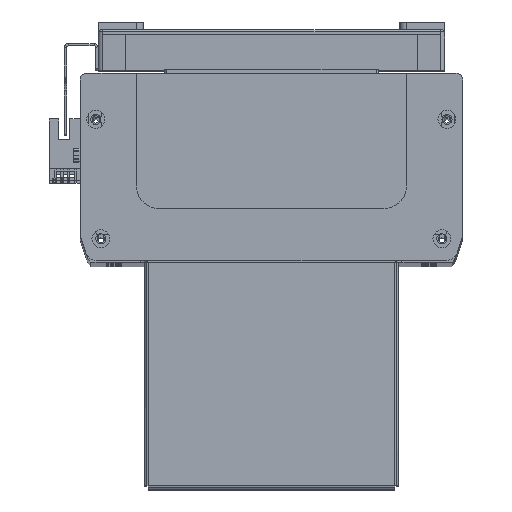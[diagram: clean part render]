
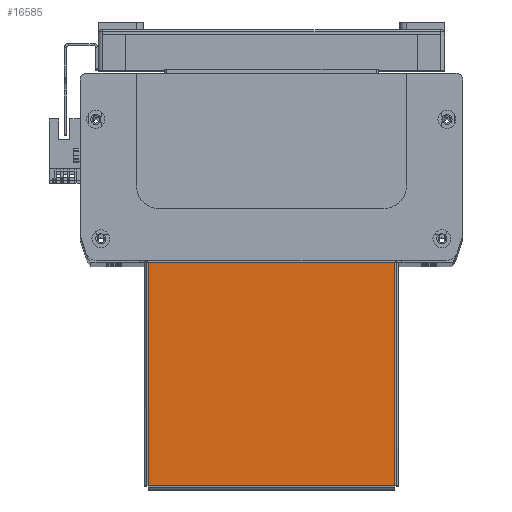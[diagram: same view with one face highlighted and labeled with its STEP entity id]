
A CAD part, top view. The second image highlights one B-rep face of the part: STEP entity #16585.
In plain terms, the highlighted planar face has unit normal (0, 0, 1).
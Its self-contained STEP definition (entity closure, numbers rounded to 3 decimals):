
#1399 = FACE_OUTER_BOUND ( 'NONE', #37773, .T. ) ;
#7725 = CARTESIAN_POINT ( 'NONE',  ( -54.763, 50., 0. ) ) ;
#7726 = DIRECTION ( 'NONE',  ( 0., -1., 0. ) ) ;
#7730 = CARTESIAN_POINT ( 'NONE',  ( -54.793, -49.263, 0. ) ) ;
#7752 = DIRECTION ( 'NONE',  ( 1., 0., 0. ) ) ;
#11767 = EDGE_CURVE ( 'NONE', #51728, #51780, #48969, .T. ) ;
#11770 = EDGE_CURVE ( 'NONE', #51780, #51774, #49083, .T. ) ;
#11786 = EDGE_CURVE ( 'NONE', #51774, #51748, #49034, .T. ) ;
#11794 = EDGE_CURVE ( 'NONE', #51748, #51728, #49056, .T. ) ;
#14633 = CARTESIAN_POINT ( 'NONE',  ( -54.763, 50., 0. ) ) ;
#14684 = CARTESIAN_POINT ( 'NONE',  ( 54.763, 50., 0. ) ) ;
#14686 = CARTESIAN_POINT ( 'NONE',  ( -54.763, -49.263, 0. ) ) ;
#14688 = CARTESIAN_POINT ( 'NONE',  ( 54.763, -49.263, 0. ) ) ;
#14705 = CARTESIAN_POINT ( 'NONE',  ( 54.763, -49.293, 0. ) ) ;
#14710 = DIRECTION ( 'NONE',  ( 0., 1., 0. ) ) ;
#14743 = CARTESIAN_POINT ( 'NONE',  ( -55.5, 50., 0. ) ) ;
#14756 = DIRECTION ( 'NONE',  ( -1., 0., 0. ) ) ;
#16585 = ADVANCED_FACE ( 'NONE', ( #1399 ), #24384, .T. ) ;
#24357 = DIRECTION ( 'NONE',  ( 1., 0., 0. ) ) ;
#24373 = CARTESIAN_POINT ( 'NONE',  ( 0., 0., 0. ) ) ;
#24374 = DIRECTION ( 'NONE',  ( 0., 0., 1. ) ) ;
#24384 = PLANE ( 'NONE',  #29978 ) ;
#29978 = AXIS2_PLACEMENT_3D ( 'NONE', #24373, #24374, #24357 ) ;
#37773 = EDGE_LOOP ( 'NONE', ( #40348, #40264, #40268, #40367 ) ) ;
#40264 = ORIENTED_EDGE ( 'NONE', *, *, #11770, .T. ) ;
#40268 = ORIENTED_EDGE ( 'NONE', *, *, #11786, .T. ) ;
#40348 = ORIENTED_EDGE ( 'NONE', *, *, #11767, .T. ) ;
#40367 = ORIENTED_EDGE ( 'NONE', *, *, #11794, .T. ) ;
#48969 = LINE ( 'NONE', #7725, #49023 ) ;
#49023 = VECTOR ( 'NONE', #7726, 1000. ) ;
#49034 = LINE ( 'NONE', #14705, #49078 ) ;
#49056 = LINE ( 'NONE', #14743, #49088 ) ;
#49078 = VECTOR ( 'NONE', #14710, 1000. ) ;
#49081 = VECTOR ( 'NONE', #7752, 1000. ) ;
#49083 = LINE ( 'NONE', #7730, #49081 ) ;
#49088 = VECTOR ( 'NONE', #14756, 1000. ) ;
#51728 = VERTEX_POINT ( 'NONE', #14633 ) ;
#51748 = VERTEX_POINT ( 'NONE', #14684 ) ;
#51774 = VERTEX_POINT ( 'NONE', #14688 ) ;
#51780 = VERTEX_POINT ( 'NONE', #14686 ) ;
